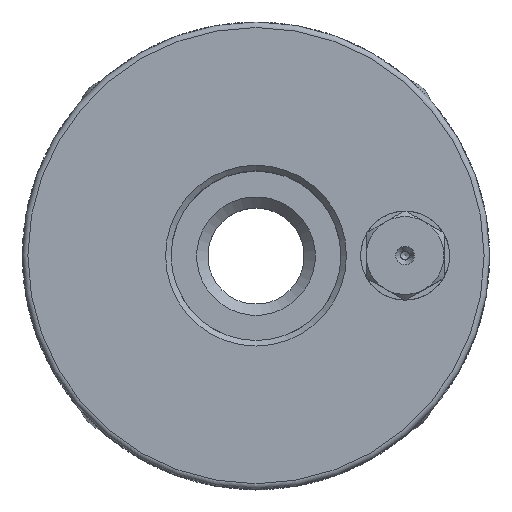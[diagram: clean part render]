
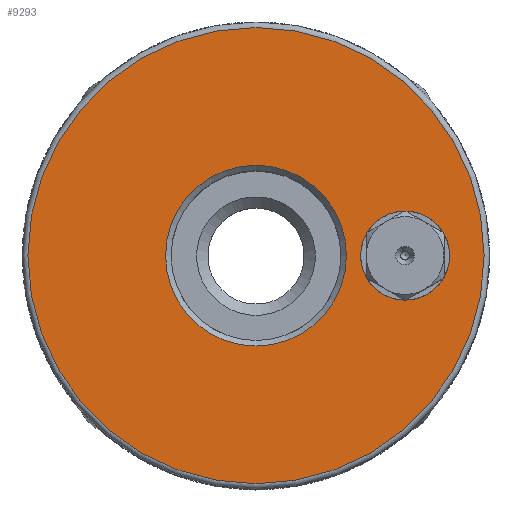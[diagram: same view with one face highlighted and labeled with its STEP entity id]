
A CAD part, top view. The second image highlights one B-rep face of the part: STEP entity #9293.
In plain terms, the highlighted planar face has unit normal (0, 0, 1).
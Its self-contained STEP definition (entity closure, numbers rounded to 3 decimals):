
#4567=ORIENTED_EDGE('',*,*,#6010,.T.);
#4568=ORIENTED_EDGE('',*,*,#6011,.T.);
#4569=ORIENTED_EDGE('',*,*,#6012,.F.);
#6010=EDGE_CURVE('',#6938,#6938,#7311,.T.);
#6011=EDGE_CURVE('',#6939,#6939,#7312,.F.);
#6012=EDGE_CURVE('',#6940,#6940,#7313,.T.);
#6938=VERTEX_POINT('',#15895);
#6939=VERTEX_POINT('',#15897);
#6940=VERTEX_POINT('',#15899);
#7311=CIRCLE('',#10326,16.25);
#7312=CIRCLE('',#10327,41.);
#7313=CIRCLE('',#10328,8.);
#7842=EDGE_LOOP('',(#4567));
#7843=EDGE_LOOP('',(#4568));
#7844=EDGE_LOOP('',(#4569));
#8444=FACE_BOUND('',#7842,.T.);
#8445=FACE_BOUND('',#7843,.T.);
#8446=FACE_BOUND('',#7844,.T.);
#8850=PLANE('',#10325);
#9293=ADVANCED_FACE('',(#8444,#8445,#8446),#8850,.F.);
#10325=AXIS2_PLACEMENT_3D('',#15893,#12793,#12794);
#10326=AXIS2_PLACEMENT_3D('',#15894,#12795,#12796);
#10327=AXIS2_PLACEMENT_3D('',#15896,#12797,#12798);
#10328=AXIS2_PLACEMENT_3D('',#15898,#12799,#12800);
#12793=DIRECTION('',(0.,0.,-1.));
#12794=DIRECTION('',(-1.,0.,0.));
#12795=DIRECTION('',(0.,0.,-1.));
#12796=DIRECTION('',(-1.,0.,0.));
#12797=DIRECTION('',(0.,0.,-1.));
#12798=DIRECTION('',(-1.,0.,0.));
#12799=DIRECTION('',(0.,0.,1.));
#12800=DIRECTION('',(1.,0.,0.));
#15893=CARTESIAN_POINT('',(42.,0.,42.));
#15894=CARTESIAN_POINT('',(0.,0.,42.));
#15895=CARTESIAN_POINT('',(-16.25,0.,42.));
#15896=CARTESIAN_POINT('',(0.,0.,42.));
#15897=CARTESIAN_POINT('',(-41.,0.,42.));
#15898=CARTESIAN_POINT('',(26.8,0.,42.));
#15899=CARTESIAN_POINT('',(34.8,0.,42.));
